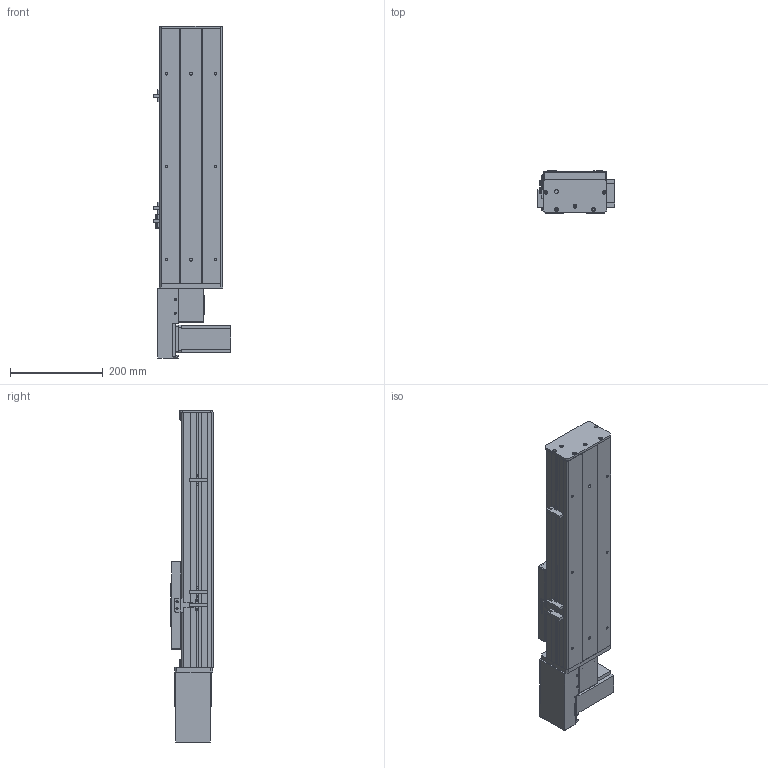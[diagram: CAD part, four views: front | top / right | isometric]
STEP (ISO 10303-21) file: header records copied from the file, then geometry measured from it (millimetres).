
FILE_DESCRIPTION (( 'STEP AP203' ), '1' );
FILE_NAME ('Y135CB-D90-S250-BR-P400W.STEP', '2020-02-18T02:08:16', ( '微软用户' ), ( '微软中国' ), 'SwSTEP 2.0', 'SolidWorks 2017', '' );
FILE_SCHEMA (( 'CONFIG_CONTROL_DESIGN' ));
Length unit declared in the file: millimetre
Products named in the file (18): 5C--俋欶; san松下电机400不带刹车----; Y135CB-耜裔; C-雄赽釱--; 5CB --掛极耜裔啣-; 135CB---遴掛极.-; Y10B--々湍喘謫眊--666; C-詩湍揤踡え-陔; 35CB---喘謫眊楊擘啣; Y135CB-D90-S250-BR-P400W; 135CB--詩湍-CE; Y10B-耜蚾蟀諉啣----; Y俋欶BR----; 0B-埴倛裔啣; Y100-135俋离換覜ん--; 0B-源倛裔啣; Y135C-陔俋离換覜結え-; 0B-萇儂楊擘啣
Assembly tree (21 placements, depth 2):
  Y135CB-D90-S250-BR-P400W
    Y135CB-耜裔
    135CB---遴掛极.-
    35CB---喘謫眊楊擘啣
    Y10B-耜蚾蟀諉啣----
    Y俋欶BR----
    0B-埴倛裔啣
    0B-源倛裔啣
    0B-萇儂楊擘啣
    san松下电机400不带刹车----
    5CB --掛极耜裔啣-  x2
    C-詩湍揤踡え-陔  x2
    135CB--詩湍-CE
    Y100-135俋离換覜ん--  x3
    Y135C-陔俋离換覜結え-
    5C--俋欶
    C-雄赽釱--
    Y10B--々湍喘謫眊--666
Bounding box: 167.5 x 91 x 714.5 mm (x, y, z)
Volume: 2439675.8 mm3; surface area: 935407.9 mm2
Topology: 21 solids, 21 shells, 929 faces, 2455 edges, 1626 vertices
Faces by surface type: plane 458, cylinder 455, cone 16
Entity records: 28533 total; most frequent: DIRECTION 4735, CARTESIAN_POINT 4636, ORIENTED_EDGE 4386, EDGE_CURVE 2193, AXIS2_PLACEMENT_3D 1717, VERTEX_POINT 1454, LINE 1301, VECTOR 1301
